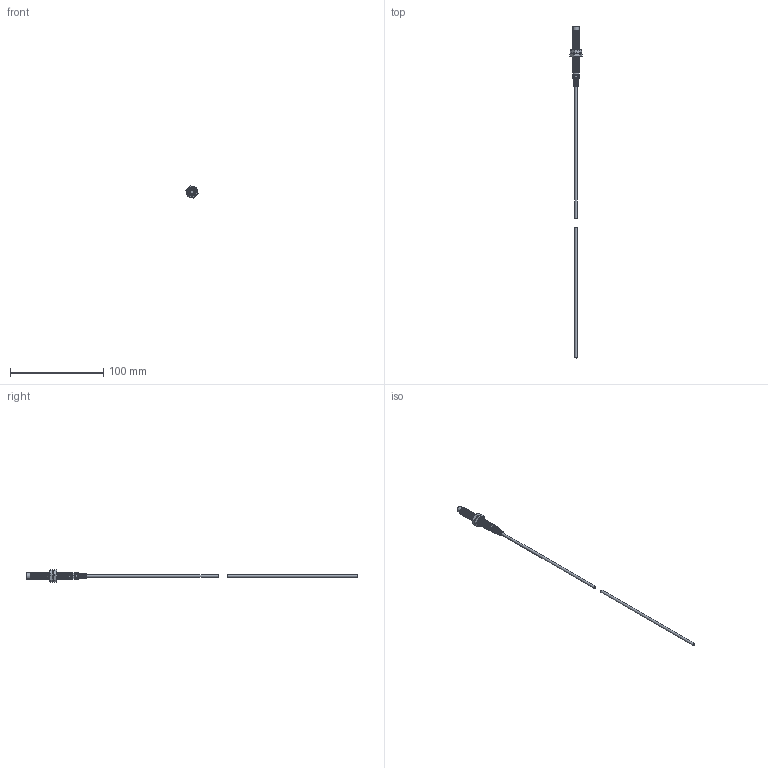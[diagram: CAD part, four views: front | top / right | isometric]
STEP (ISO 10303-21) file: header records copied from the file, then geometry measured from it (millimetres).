
FILE_DESCRIPTION(/* description */ (''),/* implementation_level */ '2;1');
FILE_NAME(/* name */ 'F3C-08KN02-N',/* time_stamp */ '2020-06-11T10:47:56+08:00',/* author */ (''),/* organization */ (''),/* preprocessor_version */ 'ST-DEVELOPER v9',/* originating_system */ 'UGS - NX 4.0',/* authorisation */ '');
FILE_SCHEMA (('CONFIG_CONTROL_DESIGN'));
Length unit declared in the file: millimetre
Products named in the file (1): F3C-08KN02-N
Bounding box: 13.12 x 356 x 13.34 mm (x, y, z)
Volume: 4668.4 mm3; surface area: 6181.7 mm2
Topology: 7 solids, 8 shells, 604 faces, 1861 edges, 1274 vertices
Faces by surface type: plane 377, cylinder 179, bspline 28, cone 15, torus 5
Full cylindrical faces by diameter (mm): 2.8 x3, 4.6 x1, 5.141 x1, 5.6 x1, 6.2 x1, 6.5 x1, 7.074 x1, 7.25 x2, 8.8 x2, 11.2 x2
Entity records: 33169 total; most frequent: CARTESIAN_POINT 17939, ORIENTED_EDGE 3590, DIRECTION 2650, EDGE_CURVE 1795, VERTEX_POINT 1245, AXIS2_PLACEMENT_3D 1155, B_SPLINE_CURVE_WITH_KNOTS 877, EDGE_LOOP 674
